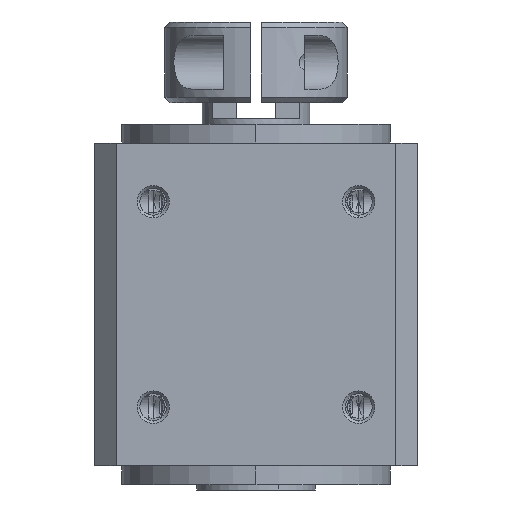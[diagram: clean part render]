
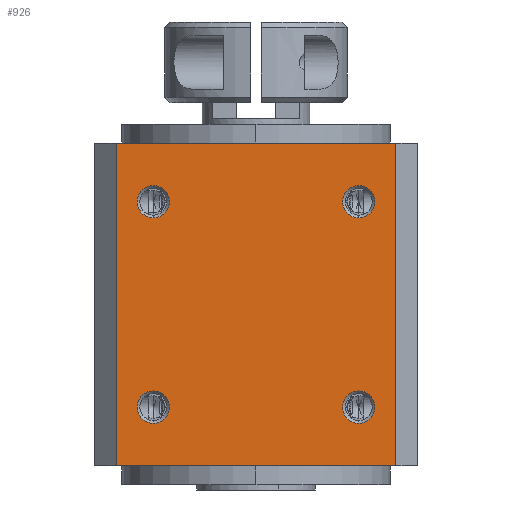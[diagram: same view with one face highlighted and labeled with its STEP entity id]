
A CAD part, left-side view. The second image highlights one B-rep face of the part: STEP entity #926.
In plain terms, the highlighted planar face has unit normal (-1, 0, 0).
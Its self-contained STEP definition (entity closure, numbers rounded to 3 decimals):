
#727 = EDGE_CURVE ( 'NONE', #728, #806, #7424, .T. ) ;
#728 = VERTEX_POINT ( 'NONE', #7420 ) ;
#806 = VERTEX_POINT ( 'NONE', #7530 ) ;
#838 = EDGE_CURVE ( 'NONE', #839, #840, #7605, .T. ) ;
#839 = VERTEX_POINT ( 'NONE', #7601 ) ;
#840 = VERTEX_POINT ( 'NONE', #7600 ) ;
#889 = ORIENTED_EDGE ( 'NONE', *, *, #890, .F. ) ;
#890 = EDGE_CURVE ( 'NONE', #27387, #24868, #7722, .T. ) ;
#891 = ORIENTED_EDGE ( 'NONE', *, *, #23180, .F. ) ;
#892 = EDGE_LOOP ( 'NONE', ( #893, #894, #896, #897 ) ) ;
#893 = ORIENTED_EDGE ( 'NONE', *, *, #727, .T. ) ;
#894 = ORIENTED_EDGE ( 'NONE', *, *, #895, .T. ) ;
#895 = EDGE_CURVE ( 'NONE', #806, #840, #7718, .T. ) ;
#896 = ORIENTED_EDGE ( 'NONE', *, *, #838, .F. ) ;
#897 = ORIENTED_EDGE ( 'NONE', *, *, #898, .T. ) ;
#898 = EDGE_CURVE ( 'NONE', #839, #728, #7714, .T. ) ;
#926 = ADVANCED_FACE ( 'NONE', ( #7724, #7723, #7727, #7726, #7725 ), #7786, .F. ) ;
#981 = EDGE_LOOP ( 'NONE', ( #982, #984 ) ) ;
#982 = ORIENTED_EDGE ( 'NONE', *, *, #983, .F. ) ;
#983 = EDGE_CURVE ( 'NONE', #5267, #5262, #7924, .T. ) ;
#984 = ORIENTED_EDGE ( 'NONE', *, *, #5326, .F. ) ;
#985 = EDGE_LOOP ( 'NONE', ( #986, #988 ) ) ;
#986 = ORIENTED_EDGE ( 'NONE', *, *, #987, .F. ) ;
#987 = EDGE_CURVE ( 'NONE', #30722, #30732, #7916, .T. ) ;
#988 = ORIENTED_EDGE ( 'NONE', *, *, #30800, .F. ) ;
#989 = EDGE_LOOP ( 'NONE', ( #990, #992 ) ) ;
#990 = ORIENTED_EDGE ( 'NONE', *, *, #991, .F. ) ;
#991 = EDGE_CURVE ( 'NONE', #30474, #31818, #7911, .T. ) ;
#992 = ORIENTED_EDGE ( 'NONE', *, *, #31728, .F. ) ;
#993 = EDGE_LOOP ( 'NONE', ( #889, #891 ) ) ;
#5262 = VERTEX_POINT ( 'NONE', #26106 ) ;
#5267 = VERTEX_POINT ( 'NONE', #26100 ) ;
#5326 = EDGE_CURVE ( 'NONE', #5262, #5267, #26240, .T. ) ;
#7420 = CARTESIAN_POINT ( 'NONE',  ( -30., 26., 0. ) ) ;
#7421 = DIRECTION ( 'NONE',  ( 0., -1., 0. ) ) ;
#7422 = VECTOR ( 'NONE', #7421, 1000. ) ;
#7423 = CARTESIAN_POINT ( 'NONE',  ( -30., 30., 0. ) ) ;
#7424 = LINE ( 'NONE', #7423, #7422 ) ;
#7530 = CARTESIAN_POINT ( 'NONE',  ( -30., -26., 0. ) ) ;
#7600 = CARTESIAN_POINT ( 'NONE',  ( -30., -26., 60. ) ) ;
#7601 = CARTESIAN_POINT ( 'NONE',  ( -30., 26., 60. ) ) ;
#7602 = DIRECTION ( 'NONE',  ( 0., -1., 0. ) ) ;
#7603 = VECTOR ( 'NONE', #7602, 1000. ) ;
#7604 = CARTESIAN_POINT ( 'NONE',  ( -30., 30., 60. ) ) ;
#7605 = LINE ( 'NONE', #7604, #7603 ) ;
#7652 = CARTESIAN_POINT ( 'NONE',  ( -30., -19.092, 10.908 ) ) ;
#7711 = DIRECTION ( 'NONE',  ( 0., 0., -1. ) ) ;
#7712 = VECTOR ( 'NONE', #7711, 1000. ) ;
#7713 = CARTESIAN_POINT ( 'NONE',  ( -30., 26., 60. ) ) ;
#7714 = LINE ( 'NONE', #7713, #7712 ) ;
#7715 = DIRECTION ( 'NONE',  ( 0., 0., 1. ) ) ;
#7716 = VECTOR ( 'NONE', #7715, 1000. ) ;
#7717 = CARTESIAN_POINT ( 'NONE',  ( -30., -26., 60. ) ) ;
#7718 = LINE ( 'NONE', #7717, #7716 ) ;
#7719 = DIRECTION ( 'NONE',  ( 0., 0., 1. ) ) ;
#7720 = DIRECTION ( 'NONE',  ( -1., 0., 0. ) ) ;
#7721 = AXIS2_PLACEMENT_3D ( 'NONE', #7652, #7720, #7719 ) ;
#7722 = CIRCLE ( 'NONE', #7721, 3. ) ;
#7723 = FACE_BOUND ( 'NONE', #985, .T. ) ;
#7724 = FACE_BOUND ( 'NONE', #981, .T. ) ;
#7725 = FACE_OUTER_BOUND ( 'NONE', #892, .T. ) ;
#7726 = FACE_BOUND ( 'NONE', #993, .T. ) ;
#7727 = FACE_BOUND ( 'NONE', #989, .T. ) ;
#7781 = DIRECTION ( 'NONE',  ( 0., 1., 0. ) ) ;
#7782 = DIRECTION ( 'NONE',  ( 1., 0., 0. ) ) ;
#7783 = AXIS2_PLACEMENT_3D ( 'NONE', #7785, #7782, #7781 ) ;
#7785 = CARTESIAN_POINT ( 'NONE',  ( -30., 30., 60. ) ) ;
#7786 = PLANE ( 'NONE',  #7783 ) ;
#7907 = DIRECTION ( 'NONE',  ( 0., 0., 1. ) ) ;
#7908 = DIRECTION ( 'NONE',  ( -1., 0., 0. ) ) ;
#7909 = CARTESIAN_POINT ( 'NONE',  ( -30., -19.092, 49.092 ) ) ;
#7910 = AXIS2_PLACEMENT_3D ( 'NONE', #7909, #7908, #7907 ) ;
#7911 = CIRCLE ( 'NONE', #7910, 3. ) ;
#7912 = DIRECTION ( 'NONE',  ( 0., 0., 1. ) ) ;
#7913 = DIRECTION ( 'NONE',  ( -1., 0., 0. ) ) ;
#7914 = CARTESIAN_POINT ( 'NONE',  ( -30., 19.092, 49.092 ) ) ;
#7915 = AXIS2_PLACEMENT_3D ( 'NONE', #7914, #7913, #7912 ) ;
#7916 = CIRCLE ( 'NONE', #7915, 3. ) ;
#7917 = DIRECTION ( 'NONE',  ( 0., 0., 1. ) ) ;
#7918 = DIRECTION ( 'NONE',  ( -1., 0., 0. ) ) ;
#7919 = CARTESIAN_POINT ( 'NONE',  ( -30., 19.092, 10.908 ) ) ;
#7920 = AXIS2_PLACEMENT_3D ( 'NONE', #7919, #7918, #7917 ) ;
#7924 = CIRCLE ( 'NONE', #7920, 3. ) ;
#23180 = EDGE_CURVE ( 'NONE', #24868, #27387, #33070, .T. ) ;
#24868 = VERTEX_POINT ( 'NONE', #33113 ) ;
#26100 = CARTESIAN_POINT ( 'NONE',  ( -30., 19.092, 13.908 ) ) ;
#26106 = CARTESIAN_POINT ( 'NONE',  ( -30., 19.092, 7.908 ) ) ;
#26236 = DIRECTION ( 'NONE',  ( 0., 0., 1. ) ) ;
#26237 = DIRECTION ( 'NONE',  ( -1., 0., 0. ) ) ;
#26238 = CARTESIAN_POINT ( 'NONE',  ( -30., 19.092, 10.908 ) ) ;
#26239 = AXIS2_PLACEMENT_3D ( 'NONE', #26238, #26237, #26236 ) ;
#26240 = CIRCLE ( 'NONE', #26239, 3. ) ;
#27387 = VERTEX_POINT ( 'NONE', #33164 ) ;
#30474 = VERTEX_POINT ( 'NONE', #33262 ) ;
#30722 = VERTEX_POINT ( 'NONE', #33254 ) ;
#30732 = VERTEX_POINT ( 'NONE', #33249 ) ;
#30800 = EDGE_CURVE ( 'NONE', #30732, #30722, #33292, .T. ) ;
#31728 = EDGE_CURVE ( 'NONE', #31818, #30474, #33285, .T. ) ;
#31818 = VERTEX_POINT ( 'NONE', #33276 ) ;
#33066 = DIRECTION ( 'NONE',  ( 0., 0., 1. ) ) ;
#33067 = DIRECTION ( 'NONE',  ( -1., 0., 0. ) ) ;
#33068 = CARTESIAN_POINT ( 'NONE',  ( -30., -19.092, 10.908 ) ) ;
#33069 = AXIS2_PLACEMENT_3D ( 'NONE', #33068, #33067, #33066 ) ;
#33070 = CIRCLE ( 'NONE', #33069, 3. ) ;
#33113 = CARTESIAN_POINT ( 'NONE',  ( -30., -19.092, 7.908 ) ) ;
#33164 = CARTESIAN_POINT ( 'NONE',  ( -30., -19.092, 13.908 ) ) ;
#33249 = CARTESIAN_POINT ( 'NONE',  ( -30., 19.092, 46.092 ) ) ;
#33254 = CARTESIAN_POINT ( 'NONE',  ( -30., 19.092, 52.092 ) ) ;
#33262 = CARTESIAN_POINT ( 'NONE',  ( -30., -19.092, 52.092 ) ) ;
#33276 = CARTESIAN_POINT ( 'NONE',  ( -30., -19.092, 46.092 ) ) ;
#33277 = DIRECTION ( 'NONE',  ( 0., 0., 1. ) ) ;
#33278 = DIRECTION ( 'NONE',  ( -1., 0., 0. ) ) ;
#33279 = CARTESIAN_POINT ( 'NONE',  ( -30., -19.092, 49.092 ) ) ;
#33280 = AXIS2_PLACEMENT_3D ( 'NONE', #33279, #33278, #33277 ) ;
#33285 = CIRCLE ( 'NONE', #33280, 3. ) ;
#33288 = DIRECTION ( 'NONE',  ( 0., 0., 1. ) ) ;
#33289 = DIRECTION ( 'NONE',  ( -1., 0., 0. ) ) ;
#33290 = CARTESIAN_POINT ( 'NONE',  ( -30., 19.092, 49.092 ) ) ;
#33291 = AXIS2_PLACEMENT_3D ( 'NONE', #33290, #33289, #33288 ) ;
#33292 = CIRCLE ( 'NONE', #33291, 3. ) ;
